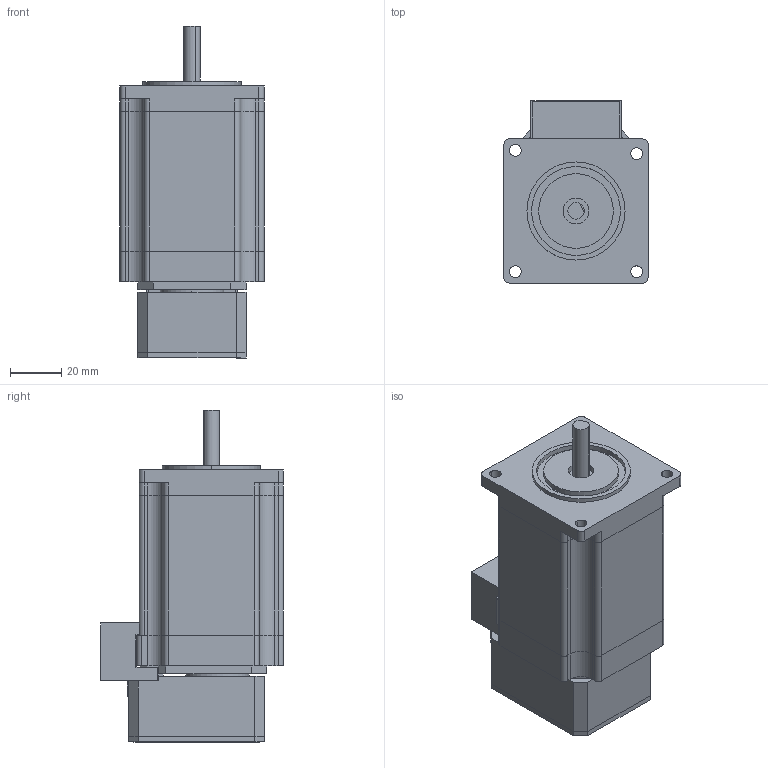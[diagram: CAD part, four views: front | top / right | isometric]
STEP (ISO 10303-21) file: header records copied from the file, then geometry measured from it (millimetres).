
FILE_DESCRIPTION (( 'STEP AP214' ), '1' );
FILE_NAME ('CM1-X-23L.STEP', '2006-08-30T14:53:45', ( 'Mark McCann' ), ( 'Myostat Motion Control' ), 'SwSTEP 2.0', 'SolidWorks 2004231', '' );
FILE_SCHEMA (( 'AUTOMOTIVE_DESIGN' ));
Length unit declared in the file: millimetre
Products named in the file (1): CM1-X-23L
Bounding box: 56.02 x 71.02 x 129 mm (x, y, z)
Volume: 249516.1 mm3; surface area: 66050.1 mm2
Topology: 10 solids, 10 shells, 748 faces, 1984 edges, 1284 vertices
Faces by surface type: plane 577, cylinder 171
Entity records: 31282 total; most frequent: CARTESIAN_POINT 4017, ORIENTED_EDGE 3968, DIRECTION 3832, EDGE_CURVE 1984, VECTOR 1634, LINE 1634, VERTEX_POINT 1284, AXIS2_PLACEMENT_3D 1099
